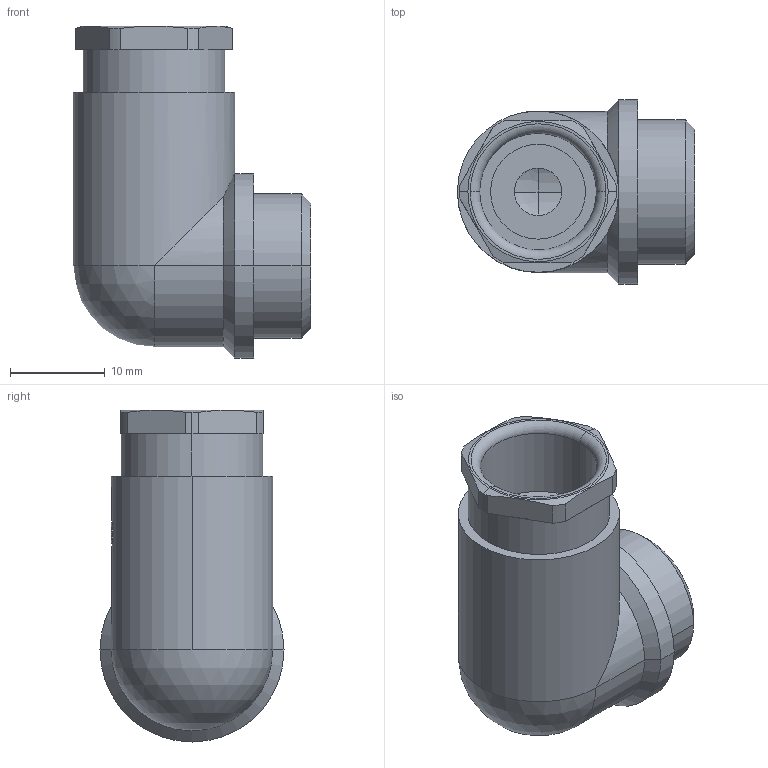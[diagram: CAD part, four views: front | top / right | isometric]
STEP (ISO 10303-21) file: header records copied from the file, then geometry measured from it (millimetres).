
FILE_DESCRIPTION (( 'STEP AP203' ), '1' );
FILE_NAME ('21.109.STEP', '2006-11-06T12:16:28', ( ' ' ), ( '' ), 'SwSTEP 2.0', 'SolidWorks 2005278', '' );
FILE_SCHEMA (( 'CONFIG_CONTROL_DESIGN' ));
Length unit declared in the file: millimetre
Products named in the file (1): 21.109
Bounding box: 25 x 19.4 x 35 mm (x, y, z)
Volume: 4953.1 mm3; surface area: 3993.4 mm2
Topology: 1 solids, 1 shells, 94 faces, 234 edges, 149 vertices
Faces by surface type: plane 49, cylinder 33, cone 7, sphere 3, torus 2
Entity records: 2918 total; most frequent: CARTESIAN_POINT 597, DIRECTION 483, ORIENTED_EDGE 460, EDGE_CURVE 230, AXIS2_PLACEMENT_3D 190, VERTEX_POINT 148, EDGE_LOOP 106, VECTOR 103
